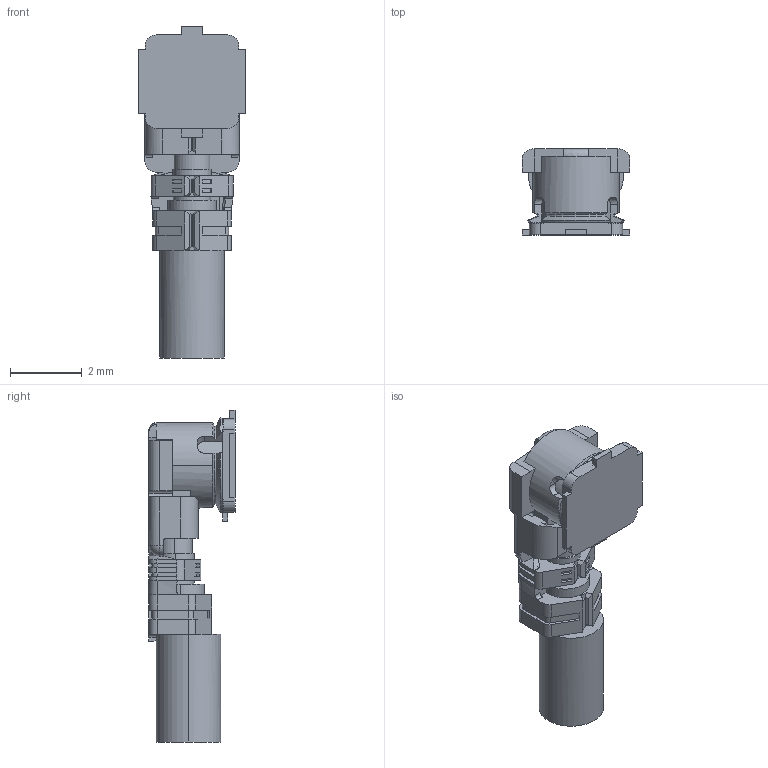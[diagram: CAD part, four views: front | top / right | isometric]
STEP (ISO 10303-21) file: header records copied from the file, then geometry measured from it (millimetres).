
FILE_DESCRIPTION (( 'STEP AP203' ), '1' );
FILE_NAME ('20278-1xxR-18+20279-001E-xxC R15R9 STEP ALL.STEP', '2018-08-06T02:47:47', ( '' ), ( '' ), 'SwSTEP 2.0', 'SolidWorks 2017', '' );
FILE_SCHEMA (( 'CONFIG_CONTROL_DESIGN' ));
Length unit declared in the file: millimetre
Products named in the file (1): 20278-1xxR-18+20279-001E-xxC R15R9 STEP ALL
Bounding box: 3 x 2.4 x 9.25 mm (x, y, z)
Volume: 30.2 mm3; surface area: 95 mm2
Topology: 1 solids, 1 shells, 396 faces, 1084 edges, 695 vertices
Faces by surface type: plane 230, cylinder 94, bspline 47, cone 18, torus 5, sphere 2
Entity records: 14059 total; most frequent: CARTESIAN_POINT 4247, ORIENTED_EDGE 2160, DIRECTION 1847, EDGE_CURVE 1080, VECTOR 711, LINE 711, VERTEX_POINT 695, AXIS2_PLACEMENT_3D 568
